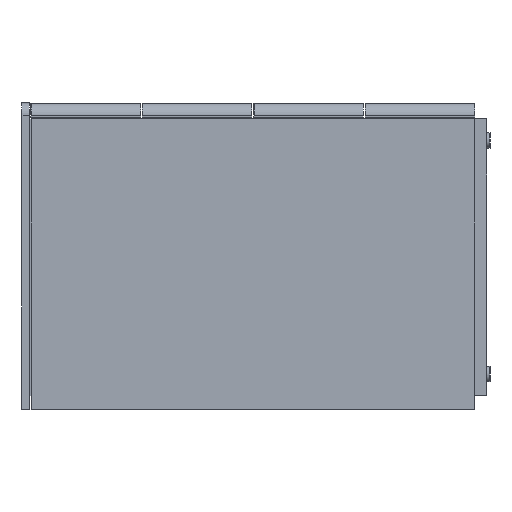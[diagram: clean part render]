
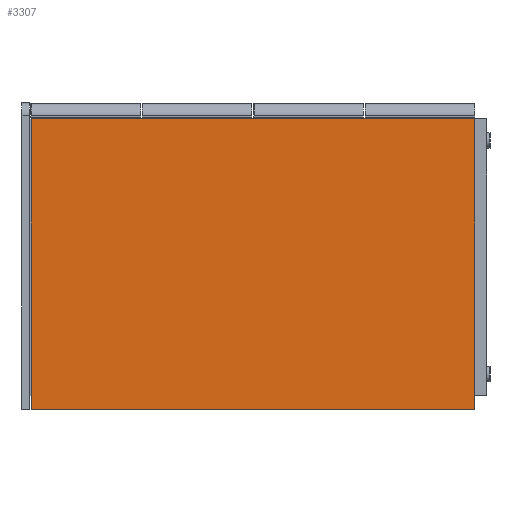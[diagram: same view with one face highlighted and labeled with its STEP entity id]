
A CAD part, left-side view. The second image highlights one B-rep face of the part: STEP entity #3307.
In plain terms, the highlighted planar face has unit normal (-1, 0, 0).
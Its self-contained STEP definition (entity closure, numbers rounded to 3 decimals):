
#144 = VERTEX_POINT ( 'NONE', #3072 ) ;
#173 = CARTESIAN_POINT ( 'NONE',  ( -594., 364.75, -238.75 ) ) ;
#355 = EDGE_LOOP ( 'NONE', ( #4022, #1748, #1899, #5939 ) ) ;
#537 = LINE ( 'NONE', #7117, #1824 ) ;
#568 = CARTESIAN_POINT ( 'NONE',  ( -594., -364.75, -238.75 ) ) ;
#794 = VERTEX_POINT ( 'NONE', #568 ) ;
#853 = LINE ( 'NONE', #5922, #6183 ) ;
#970 = DIRECTION ( 'NONE',  ( 0., 0., -1. ) ) ;
#990 = EDGE_CURVE ( 'NONE', #4791, #144, #853, .T. ) ;
#1220 = DIRECTION ( 'NONE',  ( 0., 0., -1. ) ) ;
#1454 = CARTESIAN_POINT ( 'NONE',  ( -594., 364.75, 238.75 ) ) ;
#1460 = EDGE_CURVE ( 'NONE', #4791, #4832, #1466, .T. ) ;
#1466 = LINE ( 'NONE', #3091, #6297 ) ;
#1748 = ORIENTED_EDGE ( 'NONE', *, *, #4281, .F. ) ;
#1824 = VECTOR ( 'NONE', #1220, 1000. ) ;
#1899 = ORIENTED_EDGE ( 'NONE', *, *, #990, .F. ) ;
#2402 = DIRECTION ( 'NONE',  ( 0., -1., 0. ) ) ;
#3072 = CARTESIAN_POINT ( 'NONE',  ( -594., -364.75, 238.75 ) ) ;
#3091 = CARTESIAN_POINT ( 'NONE',  ( -594., 364.75, 238.75 ) ) ;
#3307 = ADVANCED_FACE ( 'NONE', ( #6483 ), #6007, .F. ) ;
#3698 = DIRECTION ( 'NONE',  ( 1., 0., 0. ) ) ;
#4022 = ORIENTED_EDGE ( 'NONE', *, *, #7157, .T. ) ;
#4281 = EDGE_CURVE ( 'NONE', #144, #794, #537, .T. ) ;
#4630 = DIRECTION ( 'NONE',  ( 0., -1., 0. ) ) ;
#4729 = CARTESIAN_POINT ( 'NONE',  ( -594., 364.75, 238.75 ) ) ;
#4749 = AXIS2_PLACEMENT_3D ( 'NONE', #1454, #3698, #970 ) ;
#4791 = VERTEX_POINT ( 'NONE', #4729 ) ;
#4832 = VERTEX_POINT ( 'NONE', #7083 ) ;
#5861 = LINE ( 'NONE', #173, #6436 ) ;
#5922 = CARTESIAN_POINT ( 'NONE',  ( -594., 364.75, 238.75 ) ) ;
#5939 = ORIENTED_EDGE ( 'NONE', *, *, #1460, .T. ) ;
#6007 = PLANE ( 'NONE',  #4749 ) ;
#6183 = VECTOR ( 'NONE', #4630, 1000. ) ;
#6297 = VECTOR ( 'NONE', #6935, 1000. ) ;
#6436 = VECTOR ( 'NONE', #2402, 1000. ) ;
#6483 = FACE_OUTER_BOUND ( 'NONE', #355, .T. ) ;
#6935 = DIRECTION ( 'NONE',  ( 0., 0., -1. ) ) ;
#7083 = CARTESIAN_POINT ( 'NONE',  ( -594., 364.75, -238.75 ) ) ;
#7117 = CARTESIAN_POINT ( 'NONE',  ( -594., -364.75, 238.75 ) ) ;
#7157 = EDGE_CURVE ( 'NONE', #4832, #794, #5861, .T. ) ;
